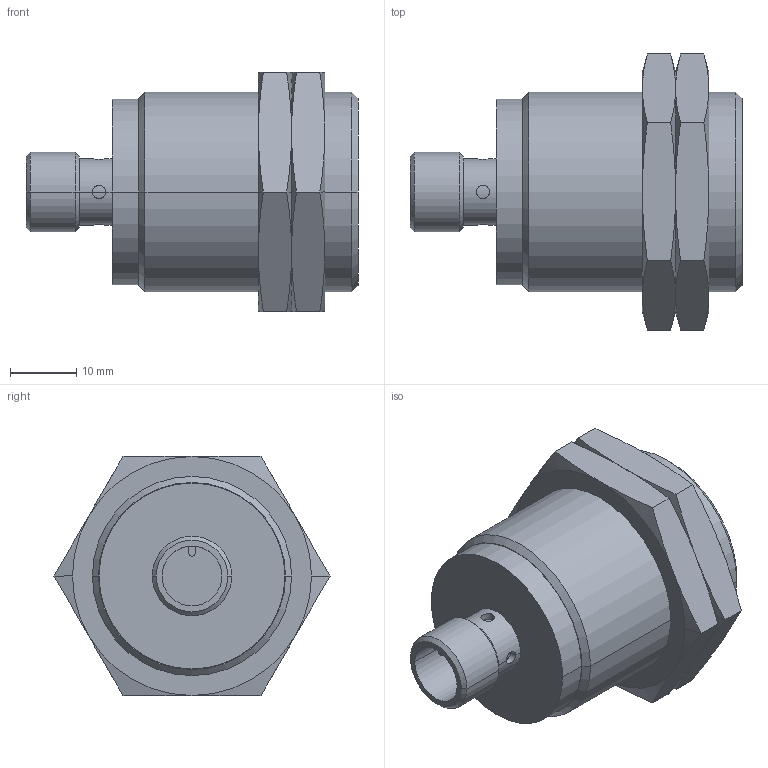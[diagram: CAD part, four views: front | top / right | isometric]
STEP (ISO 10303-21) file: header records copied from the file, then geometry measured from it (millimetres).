
FILE_DESCRIPTION( ( '' ), '1' );
FILE_NAME( '//partserver001.servicenet/client_exchange/iodir/jobs/output/wkb12392068_no0/STEP/iit22a_2_03.stp', '2008-10-06T09:49:57', ( '' ), ( '' ), ' ', ' ', ' ' );
FILE_SCHEMA( ( 'CONFIG_CONTROL_DESIGN' ) );
Length unit declared in the file: millimetre
Products named in the file (3): 1; 2; 3
Bounding box: 50 x 41.57 x 36 mm (x, y, z)
Volume: 31231.2 mm3; surface area: 9329.5 mm2
Topology: 3 solids, 3 shells, 102 faces, 222 edges, 132 vertices
Faces by surface type: cone 48, cylinder 29, plane 25
Entity records: 3066 total; most frequent: CARTESIAN_POINT 835, ORIENTED_EDGE 444, DIRECTION 440, EDGE_CURVE 222, AXIS2_PLACEMENT_3D 185, VERTEX_POINT 132, EDGE_LOOP 112, ADVANCED_FACE 102
